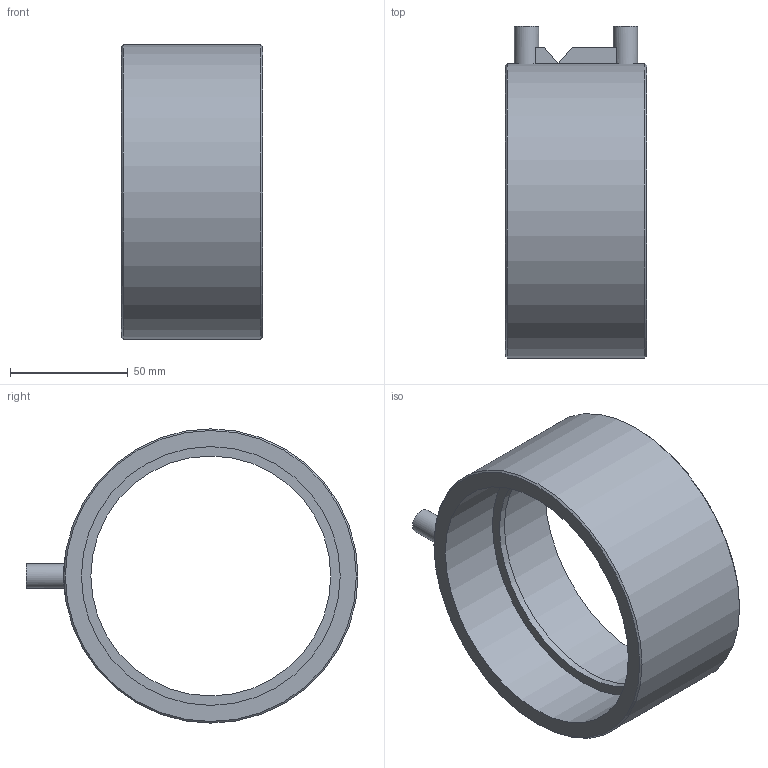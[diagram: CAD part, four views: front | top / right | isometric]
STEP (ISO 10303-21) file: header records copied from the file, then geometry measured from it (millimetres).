
FILE_DESCRIPTION(/* description */ (''),/* implementation_level */ '2;1');
FILE_NAME(/* name */ 'H:\Geberit-Teile\Export\Fertig zum Export\Elektro-Schweissmuffe_Ipart\stp\367771.stp',/* time_stamp */ '2017-07-24T13:31:48+02:00',/* author */ ('seihe2'),/* organization */ (''),/* preprocessor_version */ 'ST-DEVELOPER v15.2',/* originating_system */ 'Autodesk Inventor 2014',/* authorisation */ '');
FILE_SCHEMA (('AUTOMOTIVE_DESIGN { 1 0 10303 214 3 1 1 }'));
Length unit declared in the file: millimetre
Products named in the file (1): 367771
Bounding box: 60 x 141.1 x 125.1 mm (x, y, z)
Volume: 173709 mm3; surface area: 55691.2 mm2
Topology: 1 solids, 1 shells, 30 faces, 64 edges, 42 vertices
Faces by surface type: plane 14, cylinder 12, cone 4
Full cylindrical faces by diameter (mm): 7.4 x2, 10.4 x2, 102 x1, 110 x2, 112 x2, 125.1 x1
Entity records: 866 total; most frequent: CARTESIAN_POINT 242, DIRECTION 116, ORIENTED_EDGE 90, AXIS2_PLACEMENT_3D 52, EDGE_LOOP 51, EDGE_CURVE 45, VERTEX_POINT 36, STYLED_ITEM 31
